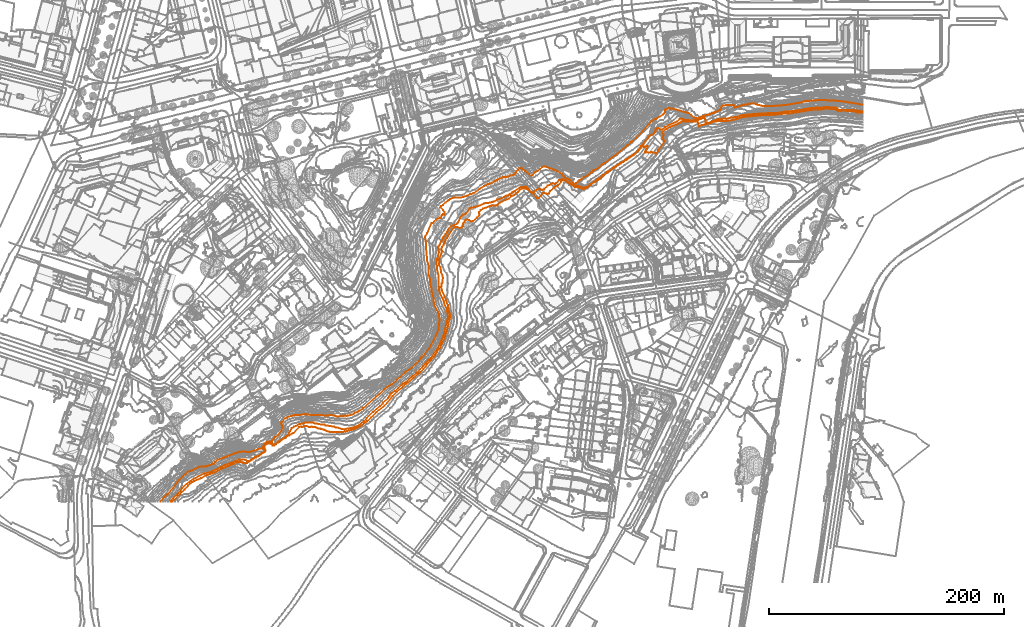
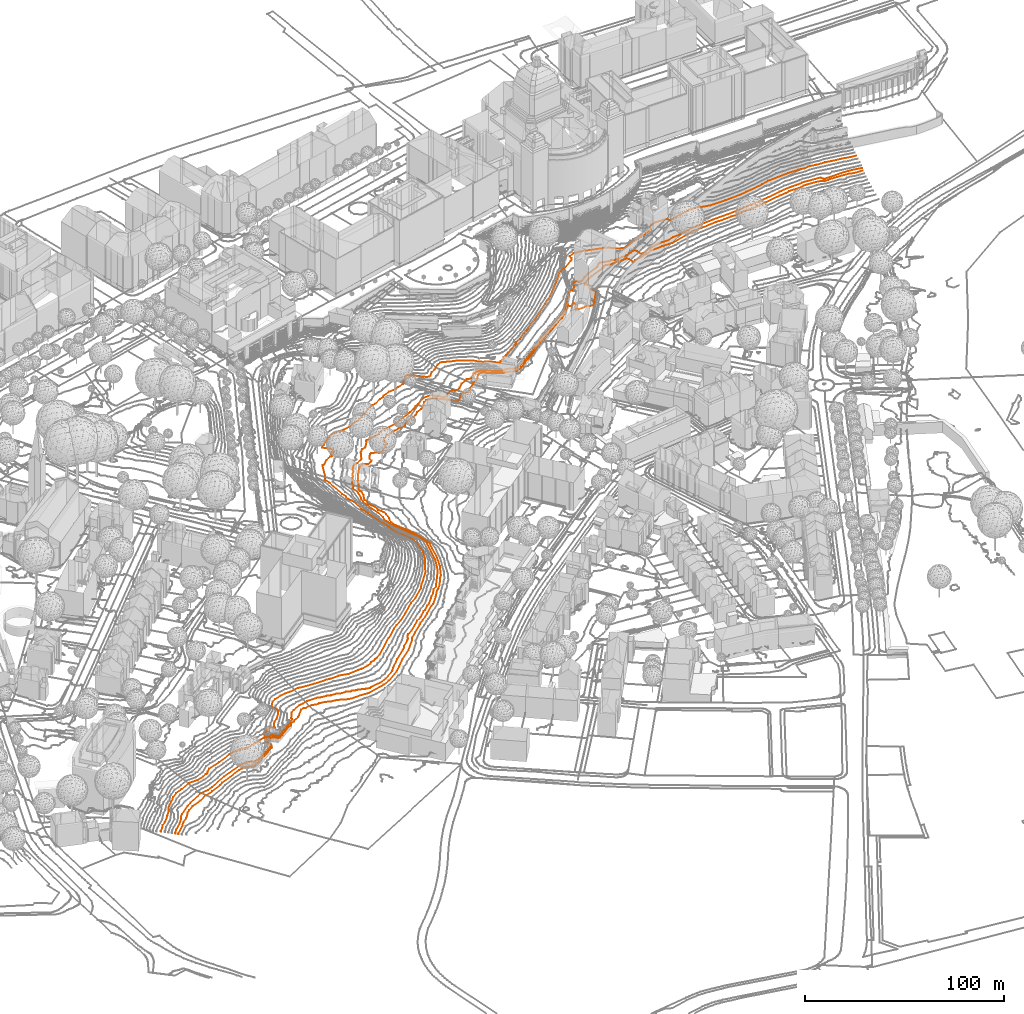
# Not in any storey, part 148 of 477: 3 geographic elements.
"""IFC4 model written with IfcOpenShell, lengths in metres."""

from ifc_helpers import new_model, entity, si_unit, frame, origin_with_axes, place, context, subcontext, project, spatial, element, save


model = new_model("IFC4")

# Units and contexts
model_context = context("Model", 3, precision=1e-05, world=origin_with_axes())
body_context = subcontext(model_context, "Body", "Model", "MODEL_VIEW")
ifc_project = project(units=[si_unit("AREAUNIT", "SQUARE_METRE"), si_unit("LENGTHUNIT", "METRE")], contexts=[model_context])

# Sites
site_1_placement = place(None, origin_with_axes())
site_1 = spatial("IfcSite", under=ifc_project, at=site_1_placement, Name="Topoexport Site")
site_2_placement = place(site_1_placement, origin_with_axes())
site_2 = spatial("IfcSite", under=site_1, at=site_2_placement, Name="TPX_CONTOUR_LINES")

# Geographic elements
geographic_element_1_placement = place(site_2_placement, frame((100.4548748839, -1.3292839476, 513.0), z_axis=(0.0, 0.0, 1.0), x_axis=(1.0, 0.0, 0.0)))
element("IfcGeographicElement", 1, at=geographic_element_1_placement, inside=site_2, Name="Contour Line 513.0 m", PredefinedType="NOTDEFINED", context=body_context, shape_type="GeometricCurveSet", body=[
    entity("IfcGeometricCurveSet", [entity("IfcIndexedPolyCurve", entity("IfcCartesianPointList3D", [[587.7228571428, 331.0606864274, 0.0], [582.2228571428, 331.3515357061, 0.0], [580.2228571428, 332.0839145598, 0.0], [576.2228571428, 332.500591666, 0.0], [569.2228571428, 332.7624394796, 0.0], [568.2228571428, 332.4714629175, 0.0], [567.2228571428, 332.7551997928, 0.0], [566.2228571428, 332.4298441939, 0.0], [565.2228571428, 333.2461895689, 0.0], [563.2228571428, 334.026642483, 0.0], [557.2228571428, 334.4316708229, 0.0], [555.2228571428, 334.4908560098, 0.0], [552.2228571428, 333.8805276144, 0.0], [546.2228571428, 333.8555910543, 0.0], [544.2228571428, 333.3332645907, 0.0], [540.2228571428, 332.9109265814, 0.0], [524.2228571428, 330.1685464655, 0.0], [518.2228571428, 330.075233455, 0.0], [512.2228571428, 329.0989480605, 0.0], [510.2228571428, 329.2772500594, 0.0], [506.2228571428, 328.8846222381, 0.0], [501.2228571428, 328.8622250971, 0.0], [486.2228571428, 327.4997054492, 0.0], [473.2228571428, 323.9270012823, 0.0], [467.2228571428, 324.03418537, 0.0], [460.2228571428, 323.5010606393, 0.0], [457.2228571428, 322.0889014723, 0.0], [455.2228571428, 321.8269098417, 0.0], [453.2228571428, 321.0418527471, 0.0], [449.2228571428, 320.2414619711, 0.0], [448.2228571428, 319.4395784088, 0.0], [447.5092816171, 319.5, 0.0], [447.1765378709, 322.5, 0.0], [446.2228571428, 323.7073365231, 0.0], [436.2228571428, 323.2898890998, 0.0], [434.2228571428, 323.828971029, 0.0], [433.2228571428, 323.5408114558, 0.0], [432.1641487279, 322.5, 0.0], [431.2228571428, 322.0713012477, 0.0], [423.2228571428, 318.9969743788, 0.0], [420.2228571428, 317.3196943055, 0.0], [417.2228571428, 315.1128770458, 0.0], [416.787267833, 314.5, 0.0], [417.891982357, 312.5, 0.0], [416.9595395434, 309.5, 0.0], [418.2228571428, 307.1888993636, 0.0], [418.2228571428, 305.8498665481, 0.0], [415.2228571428, 301.6534289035, 0.0], [413.3349848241, 299.5, 0.0], [413.2228571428, 298.4970927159, 0.0], [411.2228571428, 296.4688830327, 0.0], [407.2228571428, 297.5600000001, 0.0], [406.2228571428, 297.1507557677, 0.0], [403.2228571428, 297.400419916, 0.0], [402.2228571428, 297.140943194, 0.0], [402.0874488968, 297.5, 0.0], [402.723149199, 299.5, 0.0], [403.6220275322, 300.5, 0.0], [404.3698724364, 302.5, 0.0], [404.2228571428, 302.7438625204, 0.0], [403.2228571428, 302.8202614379, 0.0], [401.2228571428, 301.6720430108, 0.0], [400.2603571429, 302.5, 0.0], [400.7276190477, 303.5, 0.0], [400.2228571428, 303.5233421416, 0.0], [399.1808507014, 302.5, 0.0], [399.197727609, 301.5, 0.0], [392.2228571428, 294.8292837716, 0.0], [391.2228571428, 294.5074796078, 0.0], [386.2228571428, 290.8977299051, 0.0], [385.2228571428, 290.5973175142, 0.0], [383.2228571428, 288.9928495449, 0.0], [382.2228571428, 288.6698204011, 0.0], [381.2228571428, 287.7062757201, 0.0], [379.2228571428, 286.6917988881, 0.0], [375.2228571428, 283.8675443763, 0.0], [374.2248368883, 283.5, 0.0], [371.2228571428, 280.9723477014, 0.0], [368.7092710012, 279.5, 0.0], [364.2228571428, 275.4180696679, 0.0], [363.2228571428, 274.963898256, 0.0], [362.2228571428, 273.9412513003, 0.0], [361.2228571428, 273.7723040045, 0.0], [359.2228571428, 272.0180565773, 0.0], [357.8038638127, 271.5, 0.0], [356.2228571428, 269.8329003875, 0.0], [355.3487166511, 269.5, 0.0], [353.2228571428, 267.5849459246, 0.0], [352.2228571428, 267.0798703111, 0.0], [349.2228571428, 266.1193524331, 0.0], [344.2228571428, 267.7658878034, 0.0], [342.2228571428, 267.8673395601, 0.0], [338.2228571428, 270.1991745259, 0.0], [334.2228571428, 273.001993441, 0.0], [333.2228571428, 273.5364498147, 0.0], [331.9440382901, 273.5, 0.0], [330.7034085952, 272.5, 0.0], [328.2228571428, 269.2780710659, 0.0], [325.2228571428, 267.8403083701, 0.0], [324.2228571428, 266.7301282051, 0.0], [321.2228571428, 264.5029749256, 0.0], [320.2228571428, 262.1923473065, 0.0], [319.2228571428, 261.8523048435, 0.0], [316.2228571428, 262.5649019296, 0.0], [314.8167208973, 262.5, 0.0], [313.2228571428, 260.0645823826, 0.0], [311.303439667, 258.5, 0.0], [310.2228571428, 258.2769734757, 0.0], [305.8247545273, 262.5, 0.0], [301.2228571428, 266.0401188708, 0.0], [300.2228571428, 266.592858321, 0.0], [297.2228571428, 266.6892655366, 0.0], [295.4886008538, 265.5, 0.0], [294.0898400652, 263.5, 0.0], [291.2228571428, 261.1785856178, 0.0], [288.2228571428, 259.9265989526, 0.0], [286.2228571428, 257.9736187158, 0.0], [280.2026512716, 255.5, 0.0], [277.4968767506, 253.5, 0.0], [276.7559955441, 252.5, 0.0], [276.2228571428, 252.2311598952, 0.0], [273.2228571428, 252.1394723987, 0.0], [270.2228571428, 251.4799072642, 0.0], [264.1852322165, 249.5, 0.0], [262.2228571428, 247.9898042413, 0.0], [260.9598113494, 246.5, 0.0], [260.9059235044, 245.5, 0.0], [261.2415654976, 244.5, 0.0], [260.8561813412, 243.5, 0.0], [259.2228571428, 241.818501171, 0.0], [255.2228571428, 238.682543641, 0.0], [253.7863089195, 238.5, 0.0], [252.348202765, 239.5, 0.0], [250.2228571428, 240.1921529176, 0.0], [249.2228571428, 239.7977473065, 0.0], [248.3371266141, 238.5, 0.0], [247.210646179, 236.5, 0.0], [247.0201012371, 234.5, 0.0], [246.0313465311, 233.5, 0.0], [244.2228571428, 232.8176229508, 0.0], [242.2228571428, 233.8995702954, 0.0], [240.2228571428, 233.7523809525, 0.0], [239.8694276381, 233.5, 0.0], [238.0743400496, 231.5, 0.0], [234.2228571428, 226.0086434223, 0.0], [233.60930125, 224.5, 0.0], [232.2228571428, 222.6045871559, 0.0], [230.488415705, 218.5, 0.0], [229.1102587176, 216.5, 0.0], [228.853270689, 214.5, 0.0], [229.2297881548, 213.5, 0.0], [228.5451913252, 210.5, 0.0], [226.8263369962, 206.5, 0.0], [227.0167331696, 204.5, 0.0], [226.6982805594, 202.5, 0.0], [226.899588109, 201.5, 0.0], [227.995991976, 199.5, 0.0], [228.4999477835, 196.5, 0.0], [228.3969242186, 195.5, 0.0], [229.7893687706, 192.5, 0.0], [230.0686018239, 190.5, 0.0], [229.6537746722, 186.5, 0.0], [229.1021465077, 185.5, 0.0], [228.5752890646, 182.5, 0.0], [229.1442008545, 179.5, 0.0], [231.6585102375, 174.5, 0.0], [234.2228571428, 167.4028761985, 0.0], [236.3126984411, 157.5, 0.0], [234.9320216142, 152.5, 0.0], [233.4919934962, 145.5, 0.0], [230.6442980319, 137.5, 0.0], [227.2553497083, 130.5, 0.0], [226.2228571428, 129.3355869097, 0.0], [222.2228571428, 123.2040171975, 0.0], [219.8585373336, 120.5, 0.0], [218.6230164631, 119.5, 0.0], [215.2228571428, 115.0468238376, 0.0], [211.2228571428, 110.5013495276, 0.0], [209.5799870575, 109.5, 0.0], [204.2228571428, 104.6629049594, 0.0], [199.1526793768, 100.5, 0.0], [197.5228842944, 99.5, 0.0], [196.2228571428, 97.9999979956, 0.0], [190.7513662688, 93.5, 0.0], [187.2228571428, 90.0783869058, 0.0], [186.2693543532, 88.5, 0.0], [180.2228571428, 81.6566030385, 0.0], [173.7263684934, 76.5, 0.0], [168.9425664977, 71.5, 0.0], [165.589096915, 68.5, 0.0], [158.2228571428, 63.3581917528, 0.0], [154.2228571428, 61.6516502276, 0.0], [144.2228571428, 59.1205097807, 0.0], [140.2228571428, 59.4666173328, 0.0], [134.2228571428, 59.2794272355, 0.0], [131.2228571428, 60.0726548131, 0.0], [129.2228571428, 61.0960665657, 0.0], [126.2228571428, 62.0098889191, 0.0], [124.2228571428, 62.2049026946, 0.0], [121.2228571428, 63.334275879, 0.0], [118.2228571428, 63.7526991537, 0.0], [116.2228571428, 63.5720303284, 0.0], [114.2228571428, 64.3263157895, 0.0], [112.2228571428, 64.2554488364, 0.0], [110.2228571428, 63.6524327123, 0.0], [109.2228571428, 64.0983782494, 0.0], [107.4999182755, 63.5, 0.0], [102.9527108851, 58.5, 0.0], [100.2228571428, 57.3411095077, 0.0], [99.2228571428, 56.4060747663, 0.0], [97.2228571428, 55.7495163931, 0.0], [96.2228571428, 54.1855553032, 0.0], [94.2228571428, 53.6169762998, 0.0], [91.2228571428, 51.1122932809, 0.0], [89.7861263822, 50.5, 0.0], [88.2228571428, 48.9005371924, 0.0], [87.1119071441, 48.5, 0.0], [86.2228571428, 47.6547457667, 0.0], [85.2228571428, 47.657884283, 0.0], [83.2228571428, 49.5814169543, 0.0], [80.7802511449, 49.5, 0.0], [79.2228571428, 48.5421173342, 0.0], [78.2228571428, 47.0672785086, 0.0], [78.2228571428, 45.1914856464, 0.0], [78.8003186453, 44.5, 0.0], [78.9686481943, 43.5, 0.0], [78.2228571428, 42.0775947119, 0.0], [76.7505204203, 41.5, 0.0], [73.2228571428, 38.7493119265, 0.0], [72.2228571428, 38.6220442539, 0.0], [71.2228571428, 37.7506989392, 0.0], [70.2228571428, 37.5649878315, 0.0], [68.2228571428, 35.9662539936, 0.0], [67.2228571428, 35.7392532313, 0.0], [66.2228571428, 34.8096783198, 0.0], [65.2228571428, 34.1538196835, 0.0], [64.2228571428, 33.9195407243, 0.0], [63.2228571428, 33.079390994, 0.0], [60.2228571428, 33.093074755, 0.0], [57.2228571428, 33.9547120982, 0.0], [54.2228571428, 33.3227676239, 0.0], [41.2228571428, 27.9240382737, 0.0], [39.2228571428, 26.5248396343, 0.0], [33.2228571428, 23.9067730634, 0.0], [29.2228571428, 22.5442833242, 0.0], [28.2228571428, 22.4529298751, 0.0], [24.2228571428, 19.9796578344, 0.0], [18.2228571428, 17.6251201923, 0.0], [14.9257400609, 15.5, 0.0], [13.2228571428, 13.8744909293, 0.0], [10.2228571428, 10.1924398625, 0.0], [7.2228571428, 7.8849687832, 0.0], [5.2228571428, 5.4335488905, 0.0], [0.0, 0.5, 0.0], [0.0, 0.0, 0.0]]))]),
])
geographic_element_2_placement = place(site_2_placement, frame((98.571785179, -1.3292839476, 514.0), z_axis=(0.0, 0.0, 1.0), x_axis=(1.0, 0.0, 0.0)))
element("IfcGeographicElement", 2, at=geographic_element_2_placement, inside=site_2, Name="Contour Line 514.0 m", PredefinedType="NOTDEFINED", context=body_context, shape_type="GeometricCurveSet", body=[
    entity("IfcGeometricCurveSet", [entity("IfcIndexedPolyCurve", entity("IfcCartesianPointList3D", [[589.6059468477, 331.9594282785, 0.0], [584.1059468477, 332.9548696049, 0.0], [580.1059468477, 333.2651640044, 0.0], [568.1059468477, 333.1417293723, 0.0], [567.7013393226, 333.5, 0.0], [567.5474795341, 334.5, 0.0], [567.1059468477, 335.1589852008, 0.0], [557.1059468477, 335.9187613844, 0.0], [554.1059468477, 335.468743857, 0.0], [550.1059468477, 335.445749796, 0.0], [543.1059468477, 334.720130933, 0.0], [536.1059468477, 333.2862035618, 0.0], [527.1059468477, 332.1477184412, 0.0], [523.1059468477, 331.9909195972, 0.0], [517.1059468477, 330.9113481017, 0.0], [502.1059468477, 330.3070641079, 0.0], [489.1059468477, 329.151512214, 0.0], [485.1059468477, 328.5150466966, 0.0], [481.1059468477, 327.2763547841, 0.0], [477.1059468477, 326.9075410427, 0.0], [473.1059468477, 325.8122884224, 0.0], [470.1059468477, 325.86896447, 0.0], [466.5301568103, 325.5, 0.0], [461.1059468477, 323.8666316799, 0.0], [458.1059468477, 322.3912874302, 0.0], [455.5817755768, 322.5, 0.0], [455.2127024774, 325.5, 0.0], [454.5564838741, 326.5, 0.0], [453.1059468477, 326.5453425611, 0.0], [452.1059468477, 325.8508018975, 0.0], [450.1059468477, 325.6670409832, 0.0], [449.1059468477, 324.8782945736, 0.0], [446.1059468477, 324.7115833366, 0.0], [444.1059468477, 324.2545758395, 0.0], [443.1059468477, 324.5233151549, 0.0], [442.1059468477, 324.2590649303, 0.0], [440.1059468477, 324.9649453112, 0.0], [439.1059468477, 324.7634403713, 0.0], [438.1059468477, 324.9267159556, 0.0], [434.1059468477, 325.9720920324, 0.0], [433.1059468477, 325.5798801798, 0.0], [431.0058629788, 323.5, 0.0], [424.1059468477, 320.5284500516, 0.0], [421.1059468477, 318.8002840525, 0.0], [418.1059468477, 316.593466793, 0.0], [417.1059468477, 316.505817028, 0.0], [416.1059468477, 317.6086511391, 0.0], [415.1059468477, 317.7781615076, 0.0], [413.919844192, 317.5, 0.0], [412.9192415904, 316.5, 0.0], [412.6114441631, 314.5, 0.0], [411.8119962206, 313.5, 0.0], [410.1059468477, 312.3087978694, 0.0], [409.1059468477, 312.1571203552, 0.0], [408.1059468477, 311.6035927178, 0.0], [407.1059468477, 310.571220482, 0.0], [406.5355430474, 309.5, 0.0], [403.8411647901, 306.5, 0.0], [402.5788230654, 304.5, 0.0], [400.6896970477, 302.5, 0.0], [399.4157669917, 300.5, 0.0], [396.1059468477, 297.1753197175, 0.0], [383.1059468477, 288.2681412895, 0.0], [376.1059468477, 283.886979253, 0.0], [373.1059468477, 281.3509190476, 0.0], [372.1059468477, 280.9328076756, 0.0], [368.1059468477, 277.8595099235, 0.0], [366.864543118, 276.5, 0.0], [365.1059468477, 275.3777453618, 0.0], [364.1059468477, 274.3519344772, 0.0], [363.1059468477, 274.0240634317, 0.0], [362.1059468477, 273.0766403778, 0.0], [359.1059468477, 271.5437306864, 0.0], [358.1059468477, 270.1761286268, 0.0], [357.1059468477, 270.1074814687, 0.0], [354.1059468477, 267.6359585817, 0.0], [351.1059468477, 267.1376009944, 0.0], [347.1059468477, 268.7859482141, 0.0], [346.1059468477, 268.904473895, 0.0], [344.1059468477, 268.3609822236, 0.0], [335.1059468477, 274.0833305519, 0.0], [333.1059468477, 274.3560474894, 0.0], [330.6603356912, 273.5, 0.0], [328.1059468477, 270.9899579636, 0.0], [327.1223556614, 270.5, 0.0], [325.1059468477, 271.0758346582, 0.0], [324.1059468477, 270.1862793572, 0.0], [321.1059468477, 268.9553617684, 0.0], [318.4668402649, 266.5, 0.0], [318.1059468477, 265.7990867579, 0.0], [316.1059468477, 265.2887806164, 0.0], [315.1059468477, 265.5125633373, 0.0], [314.1059468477, 266.5152134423, 0.0], [313.1059468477, 266.307449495, 0.0], [310.1059468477, 264.4398426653, 0.0], [309.1059468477, 262.8287356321, 0.0], [306.8247918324, 263.5, 0.0], [305.3821909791, 265.5, 0.0], [304.0416921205, 266.5, 0.0], [303.1059468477, 267.6671026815, 0.0], [302.1059468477, 268.0207406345, 0.0], [298.1059468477, 267.8260165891, 0.0], [293.1059468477, 264.4023964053, 0.0], [291.1059468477, 263.4459995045, 0.0], [289.1059468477, 261.9114846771, 0.0], [286.1059468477, 260.3113750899, 0.0], [285.1059468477, 260.0516181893, 0.0], [284.1059468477, 259.3177101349, 0.0], [278.1059468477, 256.9555649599, 0.0], [275.1059468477, 255.2053731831, 0.0], [269.1059468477, 254.0316049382, 0.0], [267.1059468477, 253.904609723, 0.0], [261.1059468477, 251.1013114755, 0.0], [255.1059468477, 250.0660553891, 0.0], [254.4528812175, 249.5, 0.0], [254.1059468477, 248.4628787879, 0.0], [251.8094976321, 245.5, 0.0], [251.1059468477, 244.8616383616, 0.0], [249.1059468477, 244.2946341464, 0.0], [248.2414501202, 243.5, 0.0], [247.1059468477, 242.09070568, 0.0], [244.8250013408, 237.5, 0.0], [244.1059468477, 236.7736055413, 0.0], [241.1059468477, 235.1178809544, 0.0], [240.1059468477, 234.8031265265, 0.0], [239.1059468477, 235.0024965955, 0.0], [237.1059468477, 232.6320885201, 0.0], [236.1059468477, 231.0991421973, 0.0], [235.5253586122, 229.5, 0.0], [234.1059468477, 227.8231179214, 0.0], [233.1059468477, 225.7654304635, 0.0], [232.1059468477, 224.6135211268, 0.0], [231.7069579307, 223.5, 0.0], [230.2936835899, 221.5, 0.0], [229.1758440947, 218.5, 0.0], [228.1059468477, 217.2849056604, 0.0], [227.9494970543, 216.5, 0.0], [228.4861640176, 212.5, 0.0], [227.3376971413, 207.5, 0.0], [226.8652773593, 206.5, 0.0], [226.5787369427, 202.5, 0.0], [226.9668421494, 200.5, 0.0], [227.0148047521, 197.5, 0.0], [228.2474833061, 192.5, 0.0], [228.3943592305, 187.5, 0.0], [228.050290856, 184.5, 0.0], [228.6155231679, 182.5, 0.0], [228.622274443, 180.5, 0.0], [229.4763681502, 177.5, 0.0], [231.5663255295, 173.5, 0.0], [232.7020662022, 170.5, 0.0], [232.7532195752, 169.5, 0.0], [235.1124173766, 164.5, 0.0], [236.0861800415, 159.5, 0.0], [236.1380164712, 156.5, 0.0], [232.731497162, 142.5, 0.0], [229.1059468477, 133.6725989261, 0.0], [221.1059468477, 121.6346685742, 0.0], [219.1059468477, 120.4701397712, 0.0], [217.1059468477, 117.5794183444, 0.0], [214.8938659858, 115.5, 0.0], [214.1059468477, 114.3082275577, 0.0], [210.1059468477, 110.0570573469, 0.0], [209.0609356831, 109.5, 0.0], [206.1059468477, 106.7305249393, 0.0], [205.1059468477, 106.2569254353, 0.0], [201.1059468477, 102.372452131, 0.0], [198.082780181, 100.5, 0.0], [191.1059468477, 94.3679515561, 0.0], [188.2120156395, 92.5, 0.0], [187.2626299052, 91.5, 0.0], [186.297906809, 89.5, 0.0], [185.1059468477, 88.0558485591, 0.0], [181.1619781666, 84.5, 0.0], [180.5318760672, 83.5, 0.0], [178.5059468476, 81.5, 0.0], [172.5660353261, 76.5, 0.0], [167.1059468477, 71.0212385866, 0.0], [165.0123149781, 68.5, 0.0], [159.1059468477, 64.5733065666, 0.0], [155.1059468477, 63.0264499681, 0.0], [149.1059468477, 61.9143686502, 0.0], [148.1059468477, 61.4517728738, 0.0], [146.1059468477, 61.74251497, 0.0], [142.1059468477, 63.1335234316, 0.0], [141.1059468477, 63.0815968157, 0.0], [139.1059468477, 63.7802916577, 0.0], [138.1059468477, 63.750155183, 0.0], [136.1059468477, 64.463902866, 0.0], [132.1059468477, 64.7651085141, 0.0], [131.1059468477, 65.5719273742, 0.0], [128.1059468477, 65.5747102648, 0.0], [126.1059468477, 66.2330412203, 0.0], [123.1059468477, 66.5140122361, 0.0], [121.1059468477, 67.2397260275, 0.0], [115.1059468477, 67.3246373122, 0.0], [112.1059468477, 66.3973349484, 0.0], [110.1059468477, 66.1534486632, 0.0], [105.1059468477, 63.7904059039, 0.0], [103.3303370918, 62.5, 0.0], [101.6186685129, 59.5, 0.0], [100.6341247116, 58.5, 0.0], [100.6378731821, 57.5, 0.0], [98.1059468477, 54.855233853, 0.0], [96.1059468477, 53.9499979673, 0.0], [95.1059468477, 52.987346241, 0.0], [94.1059468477, 52.605436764, 0.0], [92.1059468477, 50.9747451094, 0.0], [91.1059468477, 50.5740040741, 0.0], [88.1059468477, 48.0311904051, 0.0], [87.1059468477, 47.9833058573, 0.0], [86.1059468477, 49.2589251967, 0.0], [85.1059468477, 49.9767742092, 0.0], [84.1059468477, 50.0413510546, 0.0], [81.6856656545, 49.5, 0.0], [79.9453875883, 47.5, 0.0], [79.87834985, 45.5, 0.0], [80.3794131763, 43.5, 0.0], [79.9560072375, 42.5, 0.0], [79.1059468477, 41.8758182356, 0.0], [78.1059468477, 41.5844886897, 0.0], [75.1059468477, 39.166845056, 0.0], [74.1059468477, 38.8985721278, 0.0], [73.1059468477, 38.0644364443, 0.0], [72.1059468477, 37.9028998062, 0.0], [71.1059468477, 37.0227254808, 0.0], [66.4226121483, 34.5, 0.0], [65.2836820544, 34.5, 0.0], [64.1059468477, 35.6488322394, 0.0], [62.1059468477, 35.8882172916, 0.0], [58.1059468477, 35.7005704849, 0.0], [46.1059468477, 31.0009292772, 0.0], [36.1059468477, 26.0742637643, 0.0], [33.1059468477, 24.8631255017, 0.0], [28.1059468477, 23.8907358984, 0.0], [20.1059468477, 19.6237955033, 0.0], [17.1059468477, 17.6781775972, 0.0], [11.1059468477, 12.9367421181, 0.0], [9.7576456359, 11.5, 0.0], [8.6793084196, 9.5, 0.0], [6.1235510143, 6.5, 0.0], [2.1059468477, 2.8763125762, 0.0], [0.0, 0.5, 0.0], [0.0, 0.0, 0.0]]))]),
])
geographic_element_3_placement = place(site_2_placement, frame((90.07878512, -1.3292839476, 518.0), z_axis=(0.0, 0.0, 1.0), x_axis=(1.0, 0.0, 0.0)))
element("IfcGeographicElement", 3, at=geographic_element_3_placement, inside=site_2, Name="Contour Line 518.0 m", PredefinedType="NOTDEFINED", context=body_context, shape_type="GeometricCurveSet", body=[
    entity("IfcGeometricCurveSet", [entity("IfcIndexedPolyCurve", entity("IfcCartesianPointList3D", [[598.0989469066, 337.7987259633, 0.0], [594.5989469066, 338.1761970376, 0.0], [589.5989469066, 339.2955058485, 0.0], [584.5989469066, 339.8848297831, 0.0], [581.5989469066, 340.5480820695, 0.0], [576.5989469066, 340.8763877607, 0.0], [572.5989469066, 341.5640208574, 0.0], [569.5989469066, 341.1814372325, 0.0], [566.5989469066, 341.602771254, 0.0], [560.5989469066, 341.7292691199, 0.0], [548.5989469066, 340.8334696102, 0.0], [544.5989469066, 339.7088788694, 0.0], [534.5989469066, 337.9540042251, 0.0], [530.5989469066, 337.4135178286, 0.0], [521.5989469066, 336.7975986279, 0.0], [512.5989469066, 336.7176531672, 0.0], [507.5989469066, 337.8090787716, 0.0], [505.5989469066, 338.6604146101, 0.0], [501.5989469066, 338.6940985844, 0.0], [500.5989469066, 338.1900169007, 0.0], [495.5989469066, 337.4973029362, 0.0], [491.5989469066, 336.1520078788, 0.0], [488.5989469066, 335.4880412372, 0.0], [488.4079399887, 336.5, 0.0], [487.6340771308, 337.5, 0.0], [481.5989469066, 337.5847863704, 0.0], [478.5989469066, 336.9501153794, 0.0], [477.1160336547, 335.5, 0.0], [476.488196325, 333.5, 0.0], [474.5989469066, 332.8249429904, 0.0], [473.5989469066, 332.1126550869, 0.0], [472.5989469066, 332.0041236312, 0.0], [471.5989469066, 331.1072235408, 0.0], [470.5989469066, 330.8084406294, 0.0], [469.5989469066, 330.8735779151, 0.0], [468.5989469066, 330.1313146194, 0.0], [467.5989469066, 329.999042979, 0.0], [466.5989469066, 329.3257722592, 0.0], [463.5989469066, 328.7776303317, 0.0], [462.5989469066, 328.1950778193, 0.0], [461.5989469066, 328.0161042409, 0.0], [460.5989469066, 327.2745449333, 0.0], [458.5989469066, 327.0439691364, 0.0], [456.5989469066, 326.1960440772, 0.0], [453.5989469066, 327.0799948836, 0.0], [449.5989469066, 330.5739052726, 0.0], [436.0522008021, 334.5, 0.0], [433.5989469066, 334.4998156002, 0.0], [432.5989469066, 334.8919863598, 0.0], [429.3657176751, 333.5, 0.0], [429.256516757, 331.5, 0.0], [428.6710450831, 330.5, 0.0], [427.558922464, 329.5, 0.0], [421.5989469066, 325.5384030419, 0.0], [420.5989469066, 325.5121522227, 0.0], [417.5989469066, 323.5786500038, 0.0], [410.5650843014, 315.5, 0.0], [401.5989469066, 306.2939578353, 0.0], [400.5989469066, 306.0407735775, 0.0], [397.5989469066, 303.3111891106, 0.0], [387.9213918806, 295.5, 0.0], [382.5989469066, 291.8405005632, 0.0], [378.5989469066, 288.1840479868, 0.0], [377.5989469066, 287.9835615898, 0.0], [375.5989469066, 286.6173179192, 0.0], [371.5989469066, 283.2829205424, 0.0], [368.5989469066, 282.0763373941, 0.0], [368.0310319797, 281.5, 0.0], [367.5989469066, 280.4542705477, 0.0], [366.5989469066, 280.067224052, 0.0], [363.5989469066, 277.5867951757, 0.0], [362.5989469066, 277.3000709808, 0.0], [360.5989469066, 276.1042909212, 0.0], [358.5989469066, 274.4761866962, 0.0], [356.5989469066, 273.7732742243, 0.0], [355.8508825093, 272.5, 0.0], [353.5989469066, 271.3278439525, 0.0], [352.5989469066, 270.4172331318, 0.0], [350.9782045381, 271.5, 0.0], [348.5989469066, 273.8817541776, 0.0], [345.5989469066, 275.1183927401, 0.0], [343.5248309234, 276.5, 0.0], [341.5989469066, 278.8497674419, 0.0], [337.1784014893, 281.5, 0.0], [334.5989469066, 282.7189294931, 0.0], [331.5989469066, 283.5799496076, 0.0], [327.5989469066, 285.2847244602, 0.0], [326.5989469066, 285.3186405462, 0.0], [324.5989469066, 284.6022092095, 0.0], [321.1432691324, 281.5, 0.0], [318.5989469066, 280.2309795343, 0.0], [316.5989469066, 277.8826492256, 0.0], [315.5989469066, 277.5988854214, 0.0], [314.5989469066, 277.6856287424, 0.0], [310.175433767, 281.5, 0.0], [308.6053444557, 282.5, 0.0], [307.5989469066, 283.7033301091, 0.0], [306.5989469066, 284.0609375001, 0.0], [305.5989469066, 283.8513274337, 0.0], [304.5989469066, 282.6023200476, 0.0], [303.0973494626, 281.5, 0.0], [302.0420825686, 279.5, 0.0], [301.1107812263, 278.5, 0.0], [297.5989469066, 277.4494068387, 0.0], [295.5989469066, 276.5083605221, 0.0], [291.5989469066, 276.1280213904, 0.0], [287.5989469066, 274.5083812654, 0.0], [286.5989469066, 273.5791920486, 0.0], [284.5989469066, 272.9308625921, 0.0], [280.5989469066, 270.6216058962, 0.0], [278.5989469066, 270.102956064, 0.0], [275.3511946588, 268.5, 0.0], [271.5989469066, 266.1802192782, 0.0], [266.5989469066, 262.5172192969, 0.0], [263.5989469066, 261.5986328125, 0.0], [261.5989469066, 260.5002418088, 0.0], [255.5989469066, 258.6710839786, 0.0], [249.5989469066, 258.6769911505, 0.0], [248.4446915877, 258.5, 0.0], [246.4541679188, 257.5, 0.0], [245.464503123, 256.5, 0.0], [244.5989469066, 256.2981689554, 0.0], [242.5989469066, 254.7698555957, 0.0], [240.348674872, 252.5, 0.0], [238.8764012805, 251.5, 0.0], [238.1178304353, 250.5, 0.0], [240.5989469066, 248.0933433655, 0.0], [241.7078783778, 246.5, 0.0], [241.6089056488, 244.5, 0.0], [240.5989469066, 244.6477177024, 0.0], [239.5989469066, 243.8821085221, 0.0], [239.213762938, 243.5, 0.0], [238.5989469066, 241.529330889, 0.0], [237.5989469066, 241.6278409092, 0.0], [234.5989469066, 240.2382052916, 0.0], [231.5989469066, 237.1251217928, 0.0], [230.5989469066, 237.2651970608, 0.0], [227.0827314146, 228.5, 0.0], [225.1315442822, 225.5, 0.0], [225.786411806, 222.5, 0.0], [226.5079606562, 210.5, 0.0], [227.0254574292, 207.5, 0.0], [226.8613157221, 205.5, 0.0], [227.9328302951, 202.5, 0.0], [228.4042833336, 193.5, 0.0], [229.3228164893, 189.5, 0.0], [229.2771786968, 187.5, 0.0], [230.6622825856, 181.5, 0.0], [230.9493332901, 178.5, 0.0], [231.4531946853, 177.5, 0.0], [232.4657482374, 173.5, 0.0], [232.6273205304, 170.5, 0.0], [233.2876640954, 167.5, 0.0], [237.1013130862, 159.5, 0.0], [237.5517627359, 154.5, 0.0], [236.5989469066, 146.9226327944, 0.0], [234.2240457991, 140.5, 0.0], [228.5822369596, 130.5, 0.0], [223.7756424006, 124.5, 0.0], [221.7132820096, 122.5, 0.0], [219.7277576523, 119.5, 0.0], [213.1493920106, 113.5, 0.0], [208.5989469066, 110.4261458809, 0.0], [201.5989469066, 103.9964621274, 0.0], [196.5989469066, 99.8331944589, 0.0], [192.7882388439, 97.5, 0.0], [190.1688842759, 95.5, 0.0], [185.5989469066, 90.9901151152, 0.0], [183.4535424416, 89.5, 0.0], [172.671785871, 79.5, 0.0], [169.5989469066, 77.4267712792, 0.0], [168.5989469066, 77.1633850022, 0.0], [167.5989469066, 76.3416036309, 0.0], [165.5989469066, 75.762266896, 0.0], [164.5989469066, 74.843060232, 0.0], [162.5989469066, 73.9875298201, 0.0], [158.5989469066, 73.0349693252, 0.0], [156.5989469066, 73.1416865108, 0.0], [150.5989469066, 72.4677105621, 0.0], [145.5989469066, 73.6224452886, 0.0], [140.5989469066, 73.3639182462, 0.0], [138.5989469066, 73.6051145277, 0.0], [131.5989469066, 73.5938001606, 0.0], [123.5989469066, 74.1600744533, 0.0], [122.5989469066, 74.5924349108, 0.0], [117.5989469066, 73.6001747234, 0.0], [114.5989469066, 73.623473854, 0.0], [111.5989469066, 73.0892088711, 0.0], [107.5989469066, 71.8092424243, 0.0], [105.5989469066, 70.6379048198, 0.0], [103.1585499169, 67.5, 0.0], [102.8869153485, 66.5, 0.0], [103.5807255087, 64.5, 0.0], [103.8655242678, 62.5, 0.0], [102.9456068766, 60.5, 0.0], [99.6503785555, 56.5, 0.0], [97.5989469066, 54.9111492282, 0.0], [96.3717684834, 53.5, 0.0], [95.2422909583, 51.5, 0.0], [95.2197854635, 50.5, 0.0], [94.5989469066, 50.3678114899, 0.0], [93.5989469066, 51.2482170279, 0.0], [92.5989469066, 51.1861155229, 0.0], [90.5989469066, 50.6662941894, 0.0], [89.0336598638, 49.5, 0.0], [88.061866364, 48.5, 0.0], [86.9432097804, 46.5, 0.0], [87.5989469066, 45.7139532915, 0.0], [87.5989469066, 44.8306419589, 0.0], [86.5989469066, 45.247640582, 0.0], [85.5989469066, 45.290618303, 0.0], [83.5989469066, 44.9297886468, 0.0], [80.6415968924, 43.5, 0.0], [79.5989469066, 43.4158726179, 0.0], [75.5989469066, 42.1840523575, 0.0], [74.5989469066, 42.0897435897, 0.0], [70.5989469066, 42.7935473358, 0.0], [66.5989469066, 42.2507883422, 0.0], [63.8652445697, 41.5, 0.0], [55.5989469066, 38.0536904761, 0.0], [48.5989469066, 35.6737356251, 0.0], [46.5989469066, 33.8031914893, 0.0], [45.5989469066, 32.4720284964, 0.0], [44.5989469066, 32.3962872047, 0.0], [42.5989469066, 31.2513495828, 0.0], [38.5989469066, 30.0441984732, 0.0], [33.5989469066, 29.8691052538, 0.0], [27.5989469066, 26.9399957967, 0.0], [23.5989469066, 25.5099571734, 0.0], [20.5989469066, 23.2933966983, 0.0], [19.0383137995, 21.5, 0.0], [15.7231850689, 18.5, 0.0], [13.9777846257, 16.5, 0.0], [12.2277704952, 13.5, 0.0], [9.5989469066, 10.2008826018, 0.0], [5.5989469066, 5.8850305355, 0.0], [3.5989469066, 4.4867857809, 0.0], [2.218759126, 2.5, 0.0], [0.0, 0.5, 0.0], [0.0, 0.0, 0.0]]))]),
])

save(model, "model.ifc")
